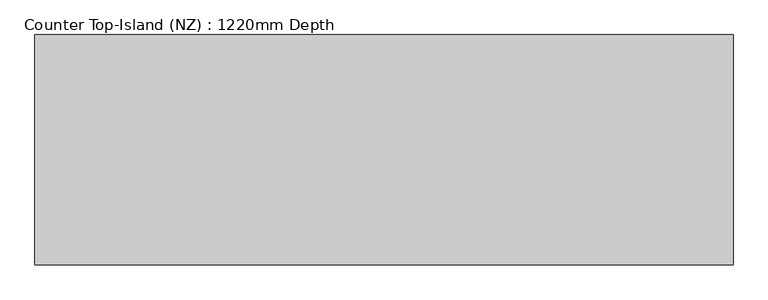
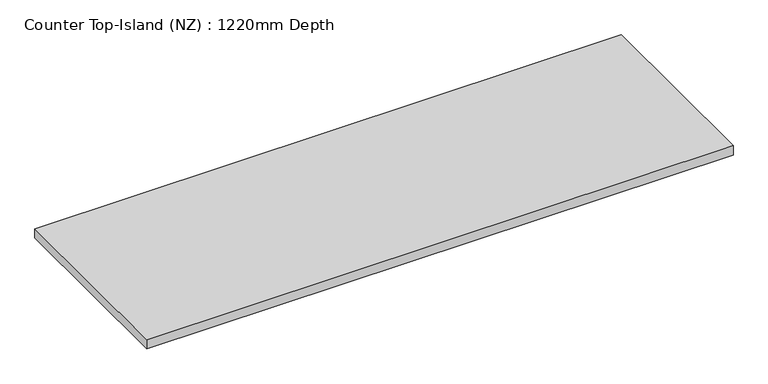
"""IFC4 building model written with IfcOpenShell, lengths in millimetres: furniture geometry, Counter Top-Island (NZ) : 1220mm Depth."""

from ifc_helpers import new_model, si_unit, frame, origin, place, context, project, spatial, polyline, outline, extrude, source, transform, mapped, element, save


def counter_top_island_nz_1220mm_depth_f6c0dd12(model_context):
    return source(origin(), model_context, "Body", "SweptSolid", [
        extrude(outline(polyline([(1224.5377049, -25.4), (-1200.4622951, -25.4), (-1200.4622951, 774.6), (1224.5377049, 774.6), (1224.5377049, -25.4)])), frame((0.0, 0.0, 860.0), z_axis=(0.0, 0.0, 1.0), x_axis=(1.0, 0.0, 0.0)), (0.0, 0.0, 1.0), 40.0),
    ])


if __name__ == "__main__":
    model = new_model("IFC4")
    model_context = context("Model", 3, world=origin())
    ifc_project = project(units=[si_unit("LENGTHUNIT", "METRE", prefix="MILLI")], contexts=[model_context])
    site = spatial("IfcSite", under=ifc_project)
    building = spatial("IfcBuilding", under=site)
    placement = place(None, origin())
    counter_top_island_nz_1220mm_depth_shape = counter_top_island_nz_1220mm_depth_f6c0dd12(model_context)
    element("IfcFurniture", 1, ObjectType="Counter Top-Island (NZ) : 1220mm Depth", at=placement, inside=building, context=model_context, shape_type="MappedRepresentation", body=[
        mapped(counter_top_island_nz_1220mm_depth_shape, transform((0.0, 0.0, 0.0), x_axis=(1.0, 0.0, 0.0), y_axis=(0.0, 1.0, 0.0), z_axis=(0.0, 0.0, 1.0))),
    ])
    save(model, "model.ifc")
